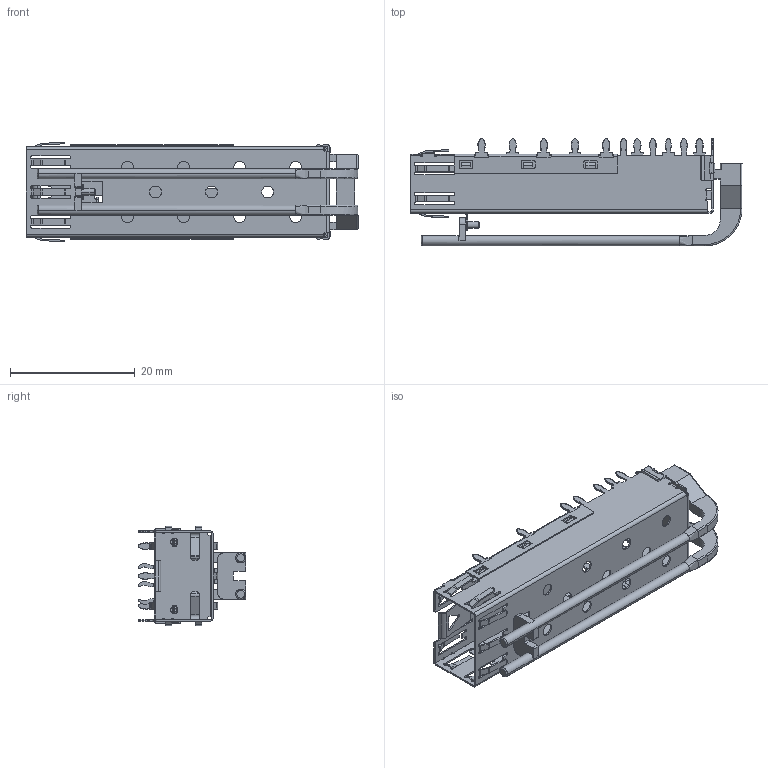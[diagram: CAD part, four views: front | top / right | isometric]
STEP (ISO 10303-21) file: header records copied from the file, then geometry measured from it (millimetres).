
FILE_DESCRIPTION (( 'STEP AP214' ), '1' );
FILE_NAME ('SA10-0010020000-0000-X.STEP', '2021-06-15T08:55:30', ( '' ), ( '' ), 'SwSTEP 2.0', 'SolidWorks 2012', '' );
FILE_SCHEMA (( 'AUTOMOTIVE_DESIGN' ));
Length unit declared in the file: millimetre
Products named in the file (4): SS40-P110_2Lightpipe; SB10-S120_w\o EMI Spring+panel spring+Ground pin; SB10-S110-1_pressfit2.25-Legs17-頂部散熱圓孔1.9+彈片-Lightpipe支架&定位孔-single; SA10-0010020000-0000-X
Assembly tree (3 placements, depth 2):
  SA10-0010020000-0000-X
    SB10-S110-1_pressfit2.25-Legs17-頂部散熱圓孔1.9+彈片-Lightpipe支架&定位孔-single
    SB10-S120_w\o EMI Spring+panel spring+Ground pin
    SS40-P110_2Lightpipe
Bounding box: 53.32 x 17.3 x 16 mm (x, y, z)
Volume: 1002.3 mm3; surface area: 5682.6 mm2
Topology: 3 solids, 3 shells, 1527 faces, 4136 edges, 2610 vertices
Faces by surface type: plane 794, cylinder 635, bspline 80, torus 16, cone 2
Entity records: 53488 total; most frequent: CARTESIAN_POINT 14601, ORIENTED_EDGE 8272, DIRECTION 8028, EDGE_CURVE 4136, AXIS2_PLACEMENT_3D 2725, VERTEX_POINT 2610, VECTOR 2578, LINE 2578
